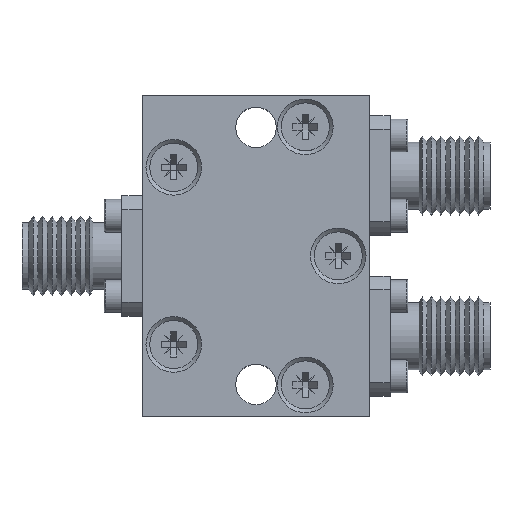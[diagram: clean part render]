
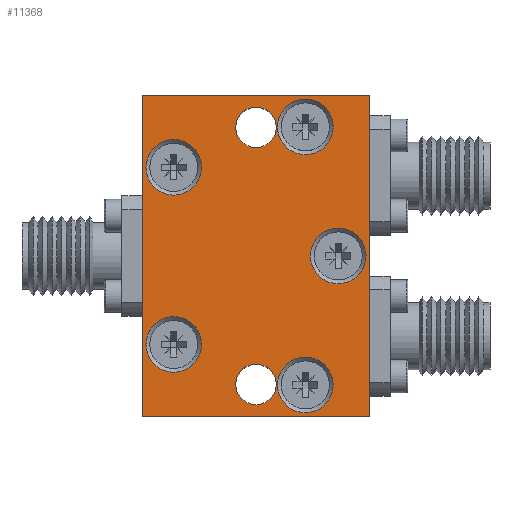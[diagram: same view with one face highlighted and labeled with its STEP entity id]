
A CAD part, top view. The second image highlights one B-rep face of the part: STEP entity #11368.
In plain terms, the highlighted planar face has unit normal (0, 0, 1).
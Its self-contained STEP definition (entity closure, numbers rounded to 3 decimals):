
#367=CIRCLE('',#11555,1.6);
#369=CIRCLE('',#11558,1.6);
#497=CIRCLE('',#12061,2.2);
#498=CIRCLE('',#12062,2.2);
#499=CIRCLE('',#12063,2.2);
#500=CIRCLE('',#12064,2.2);
#501=CIRCLE('',#12065,2.2);
#2285=ORIENTED_EDGE('',*,*,#2575,.T.);
#2286=ORIENTED_EDGE('',*,*,#2593,.T.);
#2287=ORIENTED_EDGE('',*,*,#2555,.T.);
#2288=ORIENTED_EDGE('',*,*,#2592,.T.);
#2289=ORIENTED_EDGE('',*,*,#2587,.F.);
#2290=ORIENTED_EDGE('',*,*,#2589,.F.);
#2291=ORIENTED_EDGE('',*,*,#3393,.T.);
#2292=ORIENTED_EDGE('',*,*,#3394,.T.);
#2293=ORIENTED_EDGE('',*,*,#3395,.T.);
#2294=ORIENTED_EDGE('',*,*,#3396,.T.);
#2295=ORIENTED_EDGE('',*,*,#3397,.T.);
#2555=EDGE_CURVE('',#3524,#3523,#4271,.T.);
#2575=EDGE_CURVE('',#3544,#3543,#4283,.T.);
#2587=EDGE_CURVE('',#3555,#3555,#367,.T.);
#2589=EDGE_CURVE('',#3557,#3557,#369,.T.);
#2592=EDGE_CURVE('',#3523,#3544,#4292,.T.);
#2593=EDGE_CURVE('',#3543,#3524,#4293,.T.);
#3393=EDGE_CURVE('',#4133,#4133,#497,.T.);
#3394=EDGE_CURVE('',#4134,#4134,#498,.T.);
#3395=EDGE_CURVE('',#4135,#4135,#499,.T.);
#3396=EDGE_CURVE('',#4136,#4136,#500,.T.);
#3397=EDGE_CURVE('',#4137,#4137,#501,.T.);
#3523=VERTEX_POINT('',#14503);
#3524=VERTEX_POINT('',#14505);
#3543=VERTEX_POINT('',#14544);
#3544=VERTEX_POINT('',#14546);
#3555=VERTEX_POINT('',#14570);
#3557=VERTEX_POINT('',#14575);
#4133=VERTEX_POINT('',#16546);
#4134=VERTEX_POINT('',#16548);
#4135=VERTEX_POINT('',#16550);
#4136=VERTEX_POINT('',#16552);
#4137=VERTEX_POINT('',#16554);
#4271=LINE('',#14504,#4895);
#4283=LINE('',#14545,#4907);
#4292=LINE('',#14580,#4916);
#4293=LINE('',#14582,#4917);
#4895=VECTOR('',#12322,1000.);
#4907=VECTOR('',#12352,1000.);
#4916=VECTOR('',#12385,1000.);
#4917=VECTOR('',#12388,1000.);
#6030=EDGE_LOOP('',(#2285,#2286,#2287,#2288));
#6031=EDGE_LOOP('',(#2289));
#6032=EDGE_LOOP('',(#2290));
#6033=EDGE_LOOP('',(#2291));
#6034=EDGE_LOOP('',(#2292));
#6035=EDGE_LOOP('',(#2293));
#6036=EDGE_LOOP('',(#2294));
#6037=EDGE_LOOP('',(#2295));
#6808=FACE_BOUND('',#6030,.T.);
#6809=FACE_BOUND('',#6031,.T.);
#6810=FACE_BOUND('',#6032,.T.);
#6811=FACE_BOUND('',#6033,.T.);
#6812=FACE_BOUND('',#6034,.T.);
#6813=FACE_BOUND('',#6035,.T.);
#6814=FACE_BOUND('',#6036,.T.);
#6815=FACE_BOUND('',#6037,.T.);
#7340=PLANE('',#12060);
#11368=ADVANCED_FACE('',(#6808,#6809,#6810,#6811,#6812,#6813,#6814,#6815),
#7340,.T.);
#11555=AXIS2_PLACEMENT_3D('',#14569,#12371,#12372);
#11558=AXIS2_PLACEMENT_3D('',#14574,#12377,#12378);
#12060=AXIS2_PLACEMENT_3D('',#16544,#13985,#13986);
#12061=AXIS2_PLACEMENT_3D('',#16545,#13987,#13988);
#12062=AXIS2_PLACEMENT_3D('',#16547,#13989,#13990);
#12063=AXIS2_PLACEMENT_3D('',#16549,#13991,#13992);
#12064=AXIS2_PLACEMENT_3D('',#16551,#13993,#13994);
#12065=AXIS2_PLACEMENT_3D('',#16553,#13995,#13996);
#12322=DIRECTION('',(0.,1.,0.));
#12352=DIRECTION('',(0.,-1.,0.));
#12371=DIRECTION('',(0.,0.,1.));
#12372=DIRECTION('',(1.,0.,0.));
#12377=DIRECTION('',(0.,0.,1.));
#12378=DIRECTION('',(1.,0.,0.));
#12385=DIRECTION('',(-1.,0.,0.));
#12388=DIRECTION('',(1.,0.,0.));
#13985=DIRECTION('',(0.,0.,1.));
#13986=DIRECTION('',(1.,0.,0.));
#13987=DIRECTION('',(0.,0.,-1.));
#13988=DIRECTION('',(0.,1.,0.));
#13989=DIRECTION('',(0.,0.,-1.));
#13990=DIRECTION('',(0.,1.,0.));
#13991=DIRECTION('',(0.,0.,-1.));
#13992=DIRECTION('',(0.,1.,0.));
#13993=DIRECTION('',(0.,0.,-1.));
#13994=DIRECTION('',(0.,1.,0.));
#13995=DIRECTION('',(0.,0.,-1.));
#13996=DIRECTION('',(0.,1.,0.));
#14503=CARTESIAN_POINT('',(9.,12.7,4.));
#14504=CARTESIAN_POINT('',(9.,-12.7,4.));
#14505=CARTESIAN_POINT('',(9.,-12.7,4.));
#14544=CARTESIAN_POINT('',(-9.,-12.7,4.));
#14545=CARTESIAN_POINT('',(-9.,12.7,4.));
#14546=CARTESIAN_POINT('',(-9.,12.7,4.));
#14569=CARTESIAN_POINT('',(0.,-10.16,4.));
#14570=CARTESIAN_POINT('',(1.6,-10.16,4.));
#14574=CARTESIAN_POINT('',(0.,10.16,4.));
#14575=CARTESIAN_POINT('',(1.6,10.16,4.));
#14580=CARTESIAN_POINT('',(9.,12.7,4.));
#14582=CARTESIAN_POINT('',(-9.,-12.7,4.));
#16544=CARTESIAN_POINT('',(0.,0.,4.));
#16545=CARTESIAN_POINT('',(-6.5,7.,4.));
#16546=CARTESIAN_POINT('',(-6.5,9.2,4.));
#16547=CARTESIAN_POINT('',(3.9,10.2,4.));
#16548=CARTESIAN_POINT('',(3.9,12.4,4.));
#16549=CARTESIAN_POINT('',(6.5,0.,4.));
#16550=CARTESIAN_POINT('',(6.5,2.2,4.));
#16551=CARTESIAN_POINT('',(3.9,-10.2,4.));
#16552=CARTESIAN_POINT('',(3.9,-8.,4.));
#16553=CARTESIAN_POINT('',(-6.5,-7.,4.));
#16554=CARTESIAN_POINT('',(-6.5,-4.8,4.));
